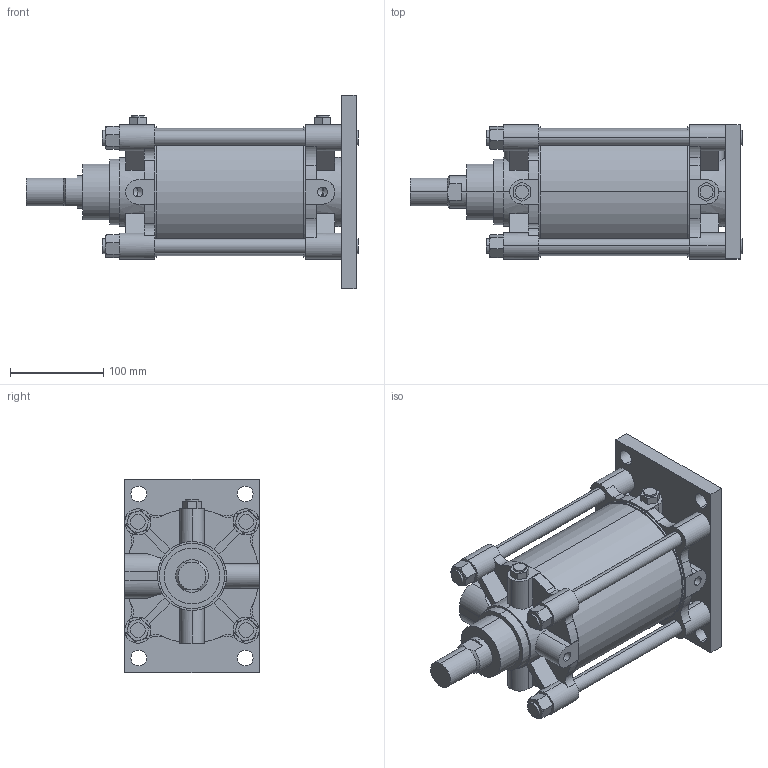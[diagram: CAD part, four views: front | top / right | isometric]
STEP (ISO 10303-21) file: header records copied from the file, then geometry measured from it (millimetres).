
FILE_DESCRIPTION (( 'STEP AP203' ), '1' );
FILE_NAME ('A##2-125#-100-B.STEP', '2016-03-31T06:50:38', ( '' ), ( '' ), 'SwSTEP 2.0', 'SolidWorks 2014', '' );
FILE_SCHEMA (( 'CONFIG_CONTROL_DESIGN' ));
Length unit declared in the file: millimetre
Products named in the file (7): A125-B; A##2-125#-100-B; A125-100; A125-AB; A125-A
Assembly tree (12 placements, depth 2):
  A##2-125#-100-B
    A125-B
    A125-100
    A125-A
    (unnamed)  x4
    (unnamed)  x4
    A125-AB
Bounding box: 356 x 144 x 208 mm (x, y, z)
Volume: 4073991 mm3; surface area: 414589.5 mm2
Topology: 12 solids, 14 shells, 346 faces, 888 edges, 572 vertices
Faces by surface type: plane 158, cylinder 150, torus 24, cone 14
Entity records: 10386 total; most frequent: CARTESIAN_POINT 2084, DIRECTION 1646, ORIENTED_EDGE 1500, EDGE_CURVE 750, AXIS2_PLACEMENT_3D 629, VERTEX_POINT 494, VECTOR 388, LINE 388
